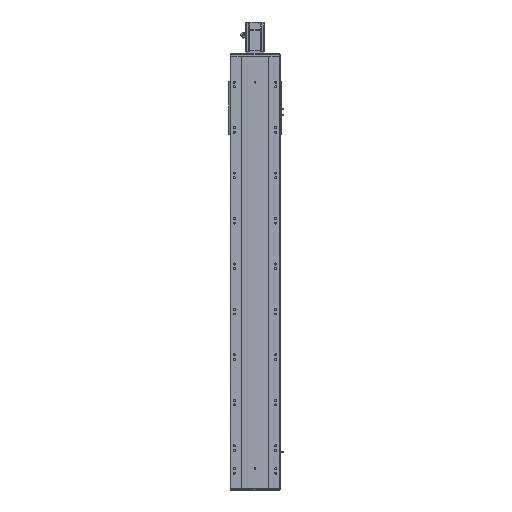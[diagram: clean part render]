
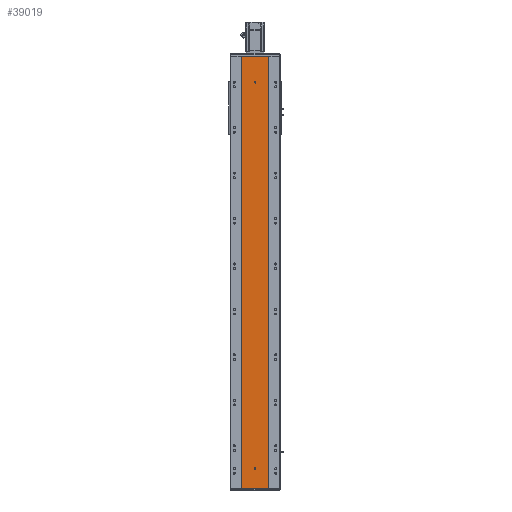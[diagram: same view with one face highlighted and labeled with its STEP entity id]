
A CAD part, front view. The second image highlights one B-rep face of the part: STEP entity #39019.
In plain terms, the highlighted planar face has unit normal (0, -1, 0).
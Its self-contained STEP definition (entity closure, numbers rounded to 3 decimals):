
#529 = CIRCLE ( 'NONE', #50105, 4. ) ;
#3112 = CIRCLE ( 'NONE', #34995, 4. ) ;
#3595 = EDGE_CURVE ( 'NONE', #38101, #74923, #529, .T. ) ;
#4007 = CARTESIAN_POINT ( 'NONE',  ( -60., 0., 1900. ) ) ;
#4301 = CIRCLE ( 'NONE', #28360, 4. ) ;
#4434 = DIRECTION ( 'NONE',  ( 0., 0., 1. ) ) ;
#4446 = FACE_BOUND ( 'NONE', #53192, .T. ) ;
#4533 = VECTOR ( 'NONE', #56557, 1000. ) ;
#4596 = DIRECTION ( 'NONE',  ( 0., -1., 0. ) ) ;
#8011 = EDGE_CURVE ( 'NONE', #55373, #52761, #3112, .T. ) ;
#9633 = CARTESIAN_POINT ( 'NONE',  ( 60., 0., 1900. ) ) ;
#9678 = LINE ( 'NONE', #16753, #60479 ) ;
#9680 = DIRECTION ( 'NONE',  ( 0., 0., -1. ) ) ;
#10393 = EDGE_LOOP ( 'NONE', ( #20362, #74713 ) ) ;
#11821 = DIRECTION ( 'NONE',  ( 0., 0., 1. ) ) ;
#12335 = VERTEX_POINT ( 'NONE', #37726 ) ;
#13762 = EDGE_CURVE ( 'NONE', #74923, #47861, #4301, .T. ) ;
#14110 = EDGE_LOOP ( 'NONE', ( #66837, #34308, #72217, #24806 ) ) ;
#16142 = CARTESIAN_POINT ( 'NONE',  ( -4., 0., 84.5 ) ) ;
#16599 = DIRECTION ( 'NONE',  ( 0., 0., -1. ) ) ;
#16631 = EDGE_CURVE ( 'NONE', #35706, #58668, #9678, .T. ) ;
#16671 = DIRECTION ( 'NONE',  ( 0., 0., -1. ) ) ;
#16753 = CARTESIAN_POINT ( 'NONE',  ( -60., 0., 0. ) ) ;
#17187 = CIRCLE ( 'NONE', #44716, 4. ) ;
#17961 = CARTESIAN_POINT ( 'NONE',  ( 0., 0., 87.5 ) ) ;
#18282 = ORIENTED_EDGE ( 'NONE', *, *, #13762, .F. ) ;
#18748 = CIRCLE ( 'NONE', #67308, 4. ) ;
#20116 = EDGE_CURVE ( 'NONE', #60896, #38101, #35953, .T. ) ;
#20362 = ORIENTED_EDGE ( 'NONE', *, *, #8011, .F. ) ;
#22004 = ORIENTED_EDGE ( 'NONE', *, *, #20116, .F. ) ;
#23897 = DIRECTION ( 'NONE',  ( 0., -1., 0. ) ) ;
#24806 = ORIENTED_EDGE ( 'NONE', *, *, #39298, .T. ) ;
#25815 = CARTESIAN_POINT ( 'NONE',  ( 60., 0., 1900. ) ) ;
#26496 = VERTEX_POINT ( 'NONE', #25815 ) ;
#27234 = ORIENTED_EDGE ( 'NONE', *, *, #3595, .F. ) ;
#27680 = VERTEX_POINT ( 'NONE', #32774 ) ;
#28360 = AXIS2_PLACEMENT_3D ( 'NONE', #58707, #30120, #71456 ) ;
#30120 = DIRECTION ( 'NONE',  ( 0., -1., 0. ) ) ;
#30372 = CARTESIAN_POINT ( 'NONE',  ( 0., 0., 1786. ) ) ;
#32424 = CARTESIAN_POINT ( 'NONE',  ( 0., 0., 1790. ) ) ;
#32577 = DIRECTION ( 'NONE',  ( 1., 0., 0. ) ) ;
#32774 = CARTESIAN_POINT ( 'NONE',  ( 4., 0., 87.5 ) ) ;
#32984 = CARTESIAN_POINT ( 'NONE',  ( 0., 0., 1786. ) ) ;
#34308 = ORIENTED_EDGE ( 'NONE', *, *, #66065, .F. ) ;
#34995 = AXIS2_PLACEMENT_3D ( 'NONE', #30372, #54290, #42433 ) ;
#35706 = VERTEX_POINT ( 'NONE', #63270 ) ;
#35953 = LINE ( 'NONE', #16142, #49751 ) ;
#37681 = VECTOR ( 'NONE', #9680, 1000. ) ;
#37726 = CARTESIAN_POINT ( 'NONE',  ( -60., 0., 1900. ) ) ;
#38101 = VERTEX_POINT ( 'NONE', #40489 ) ;
#39019 = ADVANCED_FACE ( 'NONE', ( #41341, #4446, #46874 ), #76635, .F. ) ;
#39298 = EDGE_CURVE ( 'NONE', #12335, #35706, #48760, .T. ) ;
#40489 = CARTESIAN_POINT ( 'NONE',  ( -4., 0., 84.5 ) ) ;
#41168 = CARTESIAN_POINT ( 'NONE',  ( -60., 0., 1900. ) ) ;
#41228 = LINE ( 'NONE', #74468, #42132 ) ;
#41341 = FACE_BOUND ( 'NONE', #10393, .T. ) ;
#42132 = VECTOR ( 'NONE', #4434, 1000. ) ;
#42433 = DIRECTION ( 'NONE',  ( 0., 0., -1. ) ) ;
#43057 = CARTESIAN_POINT ( 'NONE',  ( -4., 0., 87.5 ) ) ;
#43063 = EDGE_CURVE ( 'NONE', #27680, #60896, #18748, .T. ) ;
#43252 = CARTESIAN_POINT ( 'NONE',  ( 4., 0., 84.5 ) ) ;
#44716 = AXIS2_PLACEMENT_3D ( 'NONE', #32984, #4596, #57200 ) ;
#45891 = DIRECTION ( 'NONE',  ( 0., -1., 0. ) ) ;
#46874 = FACE_OUTER_BOUND ( 'NONE', #14110, .T. ) ;
#47082 = DIRECTION ( 'NONE',  ( 0., 1., 0. ) ) ;
#47861 = VERTEX_POINT ( 'NONE', #43252 ) ;
#48760 = LINE ( 'NONE', #4007, #37681 ) ;
#49312 = CARTESIAN_POINT ( 'NONE',  ( -60., 0., 1900. ) ) ;
#49751 = VECTOR ( 'NONE', #16671, 1000. ) ;
#49814 = VECTOR ( 'NONE', #32577, 1000. ) ;
#50105 = AXIS2_PLACEMENT_3D ( 'NONE', #58339, #45891, #16599 ) ;
#50387 = CARTESIAN_POINT ( 'NONE',  ( 60., 0., 0. ) ) ;
#51585 = EDGE_CURVE ( 'NONE', #12335, #26496, #73962, .T. ) ;
#52761 = VERTEX_POINT ( 'NONE', #32424 ) ;
#53192 = EDGE_LOOP ( 'NONE', ( #58149, #18282, #27234, #22004, #75614 ) ) ;
#54290 = DIRECTION ( 'NONE',  ( 0., -1., 0. ) ) ;
#55373 = VERTEX_POINT ( 'NONE', #68934 ) ;
#56557 = DIRECTION ( 'NONE',  ( 0., 0., -1. ) ) ;
#57200 = DIRECTION ( 'NONE',  ( 0., 0., -1. ) ) ;
#57801 = EDGE_CURVE ( 'NONE', #47861, #27680, #41228, .T. ) ;
#57976 = DIRECTION ( 'NONE',  ( 1., 0., 0. ) ) ;
#58149 = ORIENTED_EDGE ( 'NONE', *, *, #57801, .F. ) ;
#58339 = CARTESIAN_POINT ( 'NONE',  ( 0., 0., 84.5 ) ) ;
#58668 = VERTEX_POINT ( 'NONE', #50387 ) ;
#58707 = CARTESIAN_POINT ( 'NONE',  ( 0., 0., 84.5 ) ) ;
#59564 = EDGE_CURVE ( 'NONE', #52761, #55373, #17187, .T. ) ;
#60479 = VECTOR ( 'NONE', #57976, 1000. ) ;
#60639 = CARTESIAN_POINT ( 'NONE',  ( 0., 0., 80.5 ) ) ;
#60896 = VERTEX_POINT ( 'NONE', #43057 ) ;
#63270 = CARTESIAN_POINT ( 'NONE',  ( -60., 0., 0. ) ) ;
#65169 = DIRECTION ( 'NONE',  ( 0., 0., -1. ) ) ;
#66065 = EDGE_CURVE ( 'NONE', #26496, #58668, #75692, .T. ) ;
#66837 = ORIENTED_EDGE ( 'NONE', *, *, #16631, .T. ) ;
#67308 = AXIS2_PLACEMENT_3D ( 'NONE', #17961, #23897, #65169 ) ;
#68934 = CARTESIAN_POINT ( 'NONE',  ( 0., 0., 1782. ) ) ;
#71456 = DIRECTION ( 'NONE',  ( 0., 0., -1. ) ) ;
#72217 = ORIENTED_EDGE ( 'NONE', *, *, #51585, .F. ) ;
#73962 = LINE ( 'NONE', #49312, #49814 ) ;
#74069 = AXIS2_PLACEMENT_3D ( 'NONE', #41168, #47082, #11821 ) ;
#74468 = CARTESIAN_POINT ( 'NONE',  ( 4., 0., 84.5 ) ) ;
#74713 = ORIENTED_EDGE ( 'NONE', *, *, #59564, .F. ) ;
#74923 = VERTEX_POINT ( 'NONE', #60639 ) ;
#75614 = ORIENTED_EDGE ( 'NONE', *, *, #43063, .F. ) ;
#75692 = LINE ( 'NONE', #9633, #4533 ) ;
#76635 = PLANE ( 'NONE',  #74069 ) ;
